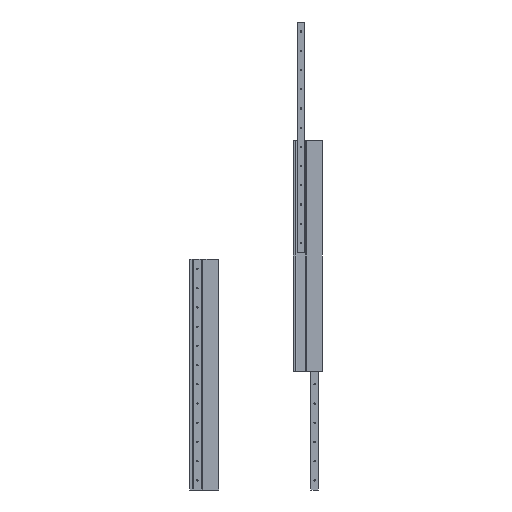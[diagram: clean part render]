
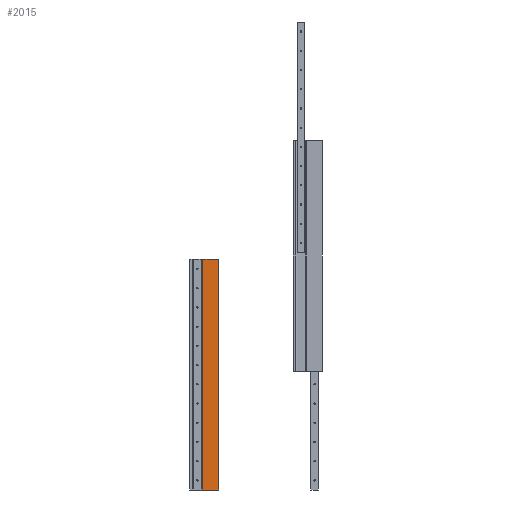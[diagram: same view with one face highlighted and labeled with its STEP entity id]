
A CAD part, front view. The second image highlights one B-rep face of the part: STEP entity #2015.
In plain terms, the highlighted planar face has unit normal (0, -1, 0) as drawn and (-1, 0, 0) by its records, which use the part's own axes.
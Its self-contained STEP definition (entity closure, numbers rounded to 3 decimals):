
#1957=CARTESIAN_POINT('',(-17.,-74.5,1200.0));
#1958=VERTEX_POINT('',#1957);
#1966=CARTESIAN_POINT('',(-17.,-74.5,0.0));
#1967=VERTEX_POINT('',#1966);
#1968=CARTESIAN_POINT('',(-17.,-74.5,0.0));
#1969=DIRECTION('',(0.0,0.0,1.0));
#1970=VECTOR('',#1969,1200.0);
#1971=LINE('',#1968,#1970);
#1972=EDGE_CURVE('',#1967,#1958,#1971,.T.);
#1985=CARTESIAN_POINT('',(-17.,-74.5,0.0));
#1986=DIRECTION('',(-1.0,0.0,0.0));
#1987=DIRECTION('',(0.0,0.0,1.0));
#1988=AXIS2_PLACEMENT_3D('',#1985,#1986,#1987);
#1989=PLANE('',#1988);
#1990=CARTESIAN_POINT('',(-17.,7.,1200.0));
#1991=VERTEX_POINT('',#1990);
#1992=CARTESIAN_POINT('',(-17.,-74.5,1200.0));
#1993=DIRECTION('',(0.0,1.0,0.0));
#1994=VECTOR('',#1993,81.5);
#1995=LINE('',#1992,#1994);
#1996=EDGE_CURVE('',#1958,#1991,#1995,.T.);
#1997=ORIENTED_EDGE('',*,*,#1996,.T.);
#1998=CARTESIAN_POINT('',(-17.,7.,0.0));
#1999=VERTEX_POINT('',#1998);
#2000=CARTESIAN_POINT('',(-17.,7.,0.0));
#2001=DIRECTION('',(0.0,0.0,1.0));
#2002=VECTOR('',#2001,1200.0);
#2003=LINE('',#2000,#2002);
#2004=EDGE_CURVE('',#1999,#1991,#2003,.T.);
#2005=ORIENTED_EDGE('',*,*,#2004,.F.);
#2006=CARTESIAN_POINT('',(-17.,7.,0.0));
#2007=DIRECTION('',(0.0,-1.0,0.0));
#2008=VECTOR('',#2007,81.5);
#2009=LINE('',#2006,#2008);
#2010=EDGE_CURVE('',#1999,#1967,#2009,.T.);
#2011=ORIENTED_EDGE('',*,*,#2010,.T.);
#2012=ORIENTED_EDGE('',*,*,#1972,.T.);
#2013=EDGE_LOOP('',(#1997,#2005,#2011,#2012));
#2014=FACE_OUTER_BOUND('',#2013,.T.);
#2015=ADVANCED_FACE('',(#2014),#1989,.T.);
